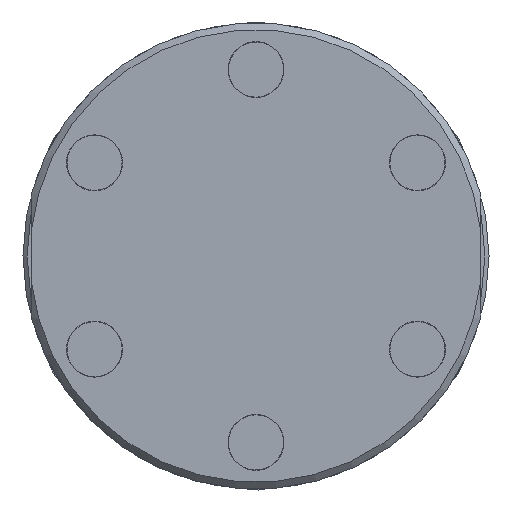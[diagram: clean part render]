
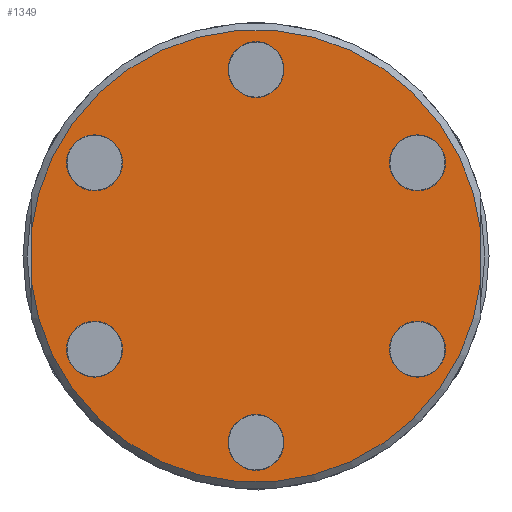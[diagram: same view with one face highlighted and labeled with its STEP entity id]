
A CAD part, front view. The second image highlights one B-rep face of the part: STEP entity #1349.
In plain terms, the highlighted planar face has unit normal (0, -1, 0).
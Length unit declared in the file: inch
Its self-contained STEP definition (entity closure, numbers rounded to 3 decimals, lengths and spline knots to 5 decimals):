
#95=LINE('',#2179,#131);
#97=LINE('',#2194,#133);
#131=VECTOR('',#1716,0.29186);
#133=VECTOR('',#1724,0.29186);
#188=PLANE('',#1468);
#244=FACE_BOUND('',#450,.T.);
#245=FACE_BOUND('',#451,.T.);
#246=FACE_BOUND('',#452,.T.);
#247=FACE_BOUND('',#453,.T.);
#248=FACE_BOUND('',#454,.T.);
#249=FACE_BOUND('',#455,.T.);
#344=FACE_OUTER_BOUND('',#449,.T.);
#449=EDGE_LOOP('',(#1030,#1031,#1032,#1033));
#450=EDGE_LOOP('',(#1034));
#451=EDGE_LOOP('',(#1035));
#452=EDGE_LOOP('',(#1036));
#453=EDGE_LOOP('',(#1037));
#454=EDGE_LOOP('',(#1038));
#455=EDGE_LOOP('',(#1039));
#607=CIRCLE('',#1432,0.165);
#609=CIRCLE('',#1435,0.165);
#611=CIRCLE('',#1438,0.165);
#613=CIRCLE('',#1441,0.165);
#615=CIRCLE('',#1444,0.165);
#617=CIRCLE('',#1447,0.165);
#627=CIRCLE('',#1469,1.335);
#628=CIRCLE('',#1470,1.335);
#705=VERTEX_POINT('',#2092);
#707=VERTEX_POINT('',#2097);
#709=VERTEX_POINT('',#2102);
#711=VERTEX_POINT('',#2107);
#713=VERTEX_POINT('',#2112);
#715=VERTEX_POINT('',#2117);
#730=VERTEX_POINT('',#2160);
#734=VERTEX_POINT('',#2175);
#737=VERTEX_POINT('',#2191);
#738=VERTEX_POINT('',#2193);
#833=EDGE_CURVE('',#705,#705,#607,.T.);
#835=EDGE_CURVE('',#707,#707,#609,.T.);
#837=EDGE_CURVE('',#709,#709,#611,.T.);
#839=EDGE_CURVE('',#711,#711,#613,.T.);
#841=EDGE_CURVE('',#713,#713,#615,.T.);
#843=EDGE_CURVE('',#715,#715,#617,.T.);
#863=EDGE_CURVE('',#730,#734,#95,.T.);
#867=EDGE_CURVE('',#737,#734,#627,.T.);
#868=EDGE_CURVE('',#737,#738,#97,.T.);
#869=EDGE_CURVE('',#730,#738,#628,.T.);
#1030=ORIENTED_EDGE('',*,*,#863,.T.);
#1031=ORIENTED_EDGE('',*,*,#867,.F.);
#1032=ORIENTED_EDGE('',*,*,#868,.T.);
#1033=ORIENTED_EDGE('',*,*,#869,.F.);
#1034=ORIENTED_EDGE('',*,*,#833,.T.);
#1035=ORIENTED_EDGE('',*,*,#835,.T.);
#1036=ORIENTED_EDGE('',*,*,#837,.T.);
#1037=ORIENTED_EDGE('',*,*,#839,.T.);
#1038=ORIENTED_EDGE('',*,*,#841,.T.);
#1039=ORIENTED_EDGE('',*,*,#843,.T.);
#1349=ADVANCED_FACE('',(#344,#244,#245,#246,#247,#248,#249),#188,.T.);
#1432=AXIS2_PLACEMENT_3D('',#2093,#1642,#1643);
#1435=AXIS2_PLACEMENT_3D('',#2098,#1648,#1649);
#1438=AXIS2_PLACEMENT_3D('',#2103,#1654,#1655);
#1441=AXIS2_PLACEMENT_3D('',#2108,#1660,#1661);
#1444=AXIS2_PLACEMENT_3D('',#2113,#1666,#1667);
#1447=AXIS2_PLACEMENT_3D('',#2118,#1672,#1673);
#1468=AXIS2_PLACEMENT_3D('',#2190,#1720,#1721);
#1469=AXIS2_PLACEMENT_3D('',#2192,#1722,#1723);
#1470=AXIS2_PLACEMENT_3D('',#2195,#1725,#1726);
#1642=DIRECTION('center_axis',(0.,1.,0.));
#1643=DIRECTION('ref_axis',(1.,0.,0.));
#1648=DIRECTION('center_axis',(0.,1.,0.));
#1649=DIRECTION('ref_axis',(1.,0.,0.));
#1654=DIRECTION('center_axis',(0.,1.,0.));
#1655=DIRECTION('ref_axis',(1.,0.,0.));
#1660=DIRECTION('center_axis',(0.,1.,0.));
#1661=DIRECTION('ref_axis',(1.,0.,0.));
#1666=DIRECTION('center_axis',(0.,1.,0.));
#1667=DIRECTION('ref_axis',(1.,0.,0.));
#1672=DIRECTION('center_axis',(0.,1.,0.));
#1673=DIRECTION('ref_axis',(1.,0.,0.));
#1716=DIRECTION('',(0.,0.,1.));
#1720=DIRECTION('center_axis',(0.,-1.,0.));
#1721=DIRECTION('ref_axis',(0.,0.,-1.));
#1722=DIRECTION('center_axis',(0.,1.,0.));
#1723=DIRECTION('ref_axis',(1.,0.,0.));
#1724=DIRECTION('',(0.,0.,-1.));
#1725=DIRECTION('center_axis',(0.,1.,0.));
#1726=DIRECTION('ref_axis',(1.,0.,0.));
#2092=CARTESIAN_POINT('',(-0.165,-0.425,1.1));
#2093=CARTESIAN_POINT('Origin',(0.,-0.425,1.1));
#2097=CARTESIAN_POINT('',(0.78763,-0.425,-0.55));
#2098=CARTESIAN_POINT('Origin',(0.95263,-0.425,-0.55));
#2102=CARTESIAN_POINT('',(-1.11763,-0.425,-0.55));
#2103=CARTESIAN_POINT('Origin',(-0.95263,-0.425,-0.55));
#2107=CARTESIAN_POINT('',(-0.165,-0.425,-1.1));
#2108=CARTESIAN_POINT('Origin',(0.,-0.425,-1.1));
#2112=CARTESIAN_POINT('',(0.78763,-0.425,0.55));
#2113=CARTESIAN_POINT('Origin',(0.95263,-0.425,0.55));
#2117=CARTESIAN_POINT('',(-1.11763,-0.425,0.55));
#2118=CARTESIAN_POINT('Origin',(-0.95263,-0.425,0.55));
#2160=CARTESIAN_POINT('',(1.327,-0.425,-0.14593));
#2175=CARTESIAN_POINT('',(1.327,-0.425,0.14593));
#2179=CARTESIAN_POINT('',(1.327,-0.425,0.));
#2190=CARTESIAN_POINT('Origin',(0.,-0.425,0.));
#2191=CARTESIAN_POINT('',(-1.327,-0.425,0.14593));
#2192=CARTESIAN_POINT('Origin',(0.,-0.425,0.));
#2193=CARTESIAN_POINT('',(-1.327,-0.425,-0.14593));
#2194=CARTESIAN_POINT('',(-1.327,-0.425,0.));
#2195=CARTESIAN_POINT('Origin',(0.,-0.425,0.));
